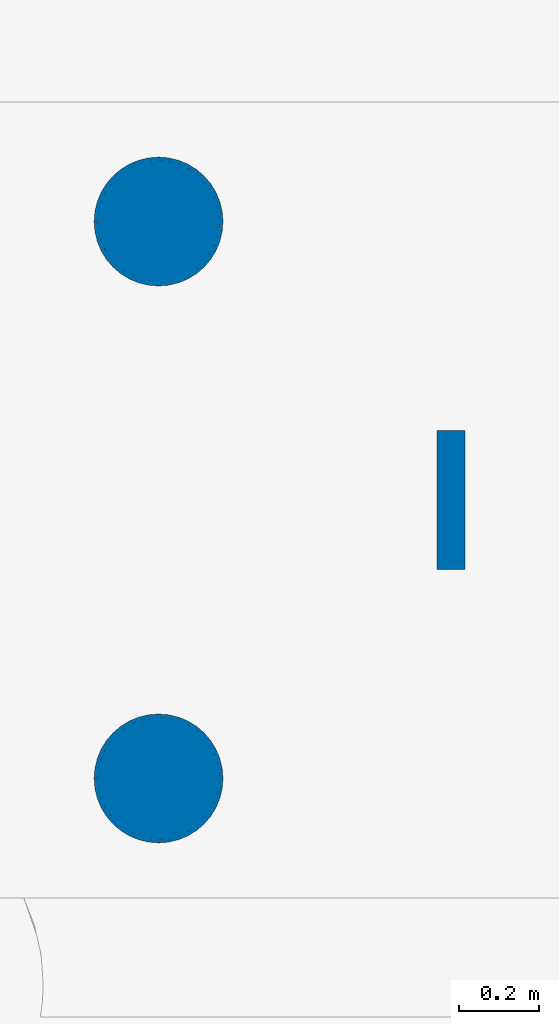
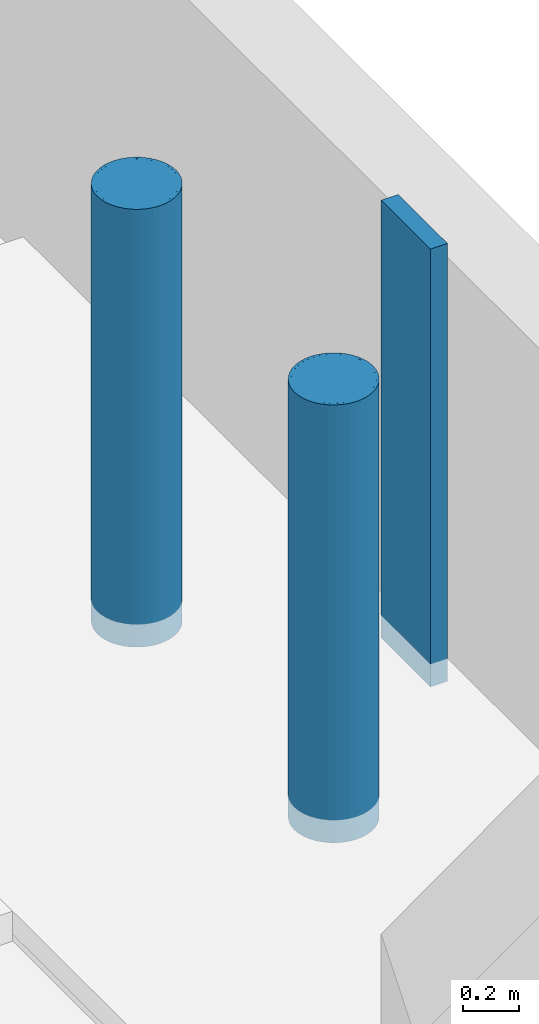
# One storey, part 12 of 42: 3 columns.
"""IFC2X3 building model written with IfcOpenShell, lengths in millimetres."""

from ifc_helpers import new_model, entity, si_unit, converted_unit, derived_unit, direction, frame, frame_2d, origin, place, context, subcontext, project, spatial, rectangle, circle, hollow_circle, extrude, source, transform, mapped, material, material_list, type_object, type_shapes, element, save


model = new_model("IFC2X3")

# Units and contexts
model_context = context("Model", 3, precision=0.01, world=origin(), true_north=direction((6.12303176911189e-17, 1.0)))
body_context = subcontext(model_context, "Body", "Model", "MODEL_VIEW")
ifc_project = project(units=[si_unit("LENGTHUNIT", "METRE", prefix="MILLI"), si_unit("AREAUNIT", "SQUARE_METRE", prefix="MILLI"), si_unit("VOLUMEUNIT", "CUBIC_METRE"), converted_unit("PLANEANGLEUNIT", "DEGREE", entity("IfcRatioMeasure", 0.0174532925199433), si_unit("PLANEANGLEUNIT", "RADIAN"), dimensions=[0, 0, 0, 0, 0, 0, 0]), si_unit("MASSUNIT", "GRAM", prefix="KILO"), derived_unit("MASSDENSITYUNIT", [(si_unit("MASSUNIT", "GRAM", prefix="KILO"), 1), (si_unit("LENGTHUNIT", "METRE"), -3)]), derived_unit("MOMENTOFINERTIAUNIT", [(si_unit("LENGTHUNIT", "METRE"), 4)]), si_unit("TIMEUNIT", "SECOND"), si_unit("FREQUENCYUNIT", "HERTZ"), si_unit("THERMODYNAMICTEMPERATUREUNIT", "DEGREE_CELSIUS"), derived_unit("THERMALTRANSMITTANCEUNIT", [(si_unit("MASSUNIT", "GRAM", prefix="KILO"), 1), (si_unit("THERMODYNAMICTEMPERATUREUNIT", "KELVIN"), -1), (si_unit("TIMEUNIT", "SECOND"), -3)]), derived_unit("VOLUMETRICFLOWRATEUNIT", [(si_unit("LENGTHUNIT", "METRE"), 3), (si_unit("TIMEUNIT", "SECOND"), -1)]), si_unit("ELECTRICCURRENTUNIT", "AMPERE"), si_unit("ELECTRICVOLTAGEUNIT", "VOLT"), si_unit("POWERUNIT", "WATT"), si_unit("FORCEUNIT", "NEWTON", prefix="KILO"), si_unit("ILLUMINANCEUNIT", "LUX"), si_unit("LUMINOUSFLUXUNIT", "LUMEN"), si_unit("LUMINOUSINTENSITYUNIT", "CANDELA"), derived_unit("USERDEFINED", [(si_unit("MASSUNIT", "GRAM", prefix="KILO"), -1), (si_unit("LENGTHUNIT", "METRE"), -2), (si_unit("TIMEUNIT", "SECOND"), 3), (si_unit("LUMINOUSFLUXUNIT", "LUMEN"), 1)]), derived_unit("LINEARVELOCITYUNIT", [(si_unit("LENGTHUNIT", "METRE"), 1), (si_unit("TIMEUNIT", "SECOND"), -1)]), si_unit("PRESSUREUNIT", "PASCAL"), derived_unit("USERDEFINED", [(si_unit("LENGTHUNIT", "METRE"), -2), (si_unit("MASSUNIT", "GRAM", prefix="KILO"), 1), (si_unit("TIMEUNIT", "SECOND"), -2)]), derived_unit("LINEARFORCEUNIT", [(si_unit("MASSUNIT", "GRAM", prefix="KILO"), 1), (si_unit("LENGTHUNIT", "METRE"), 1), (si_unit("TIMEUNIT", "SECOND"), -2), (si_unit("LENGTHUNIT", "METRE"), -1)]), derived_unit("PLANARFORCEUNIT", [(si_unit("MASSUNIT", "GRAM", prefix="KILO"), 1), (si_unit("LENGTHUNIT", "METRE"), 1), (si_unit("TIMEUNIT", "SECOND"), -2), (si_unit("LENGTHUNIT", "METRE"), -2)])], contexts=[model_context])

# Site, building, storey
site_placement = place(None, origin())
site = spatial("IfcSite", under=ifc_project, at=site_placement, Name="Theater aan de Parade", CompositionType="ELEMENT")
building_placement = place(site_placement, origin())
building = spatial("IfcBuilding", under=site, at=building_placement, Name="Theater aan de Parade", CompositionType="ELEMENT")
storey_placement = place(building_placement, frame((0.0, 0.0, -3300.0)))
storey = spatial("IfcBuildingStorey", under=building, at=storey_placement, Name="-1 kelder", CompositionType="ELEMENT", Elevation=-3300.0)

# Columns
ifc_material_1 = material(Name="00_PBT_MAT_beton t.p.g.")
column_type_1 = type_object("IfcColumnType", Name="16_PBT_SC_beton_rechthoekig:350x350_bestaand", PredefinedType="COLUMN", material=ifc_material_1)
shared_shape_1 = source(origin(), body_context, "Body", "SweptSolid", [
    extrude(rectangle(XDim=349.999999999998, YDim=69.9999999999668, at=frame_2d((0.0, 8.66151594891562e-12), x_axis=(1.0, 0.0))), frame((88325.0, 20570.0, -2640.0), z_axis=(0.0, 0.0, 1.0), x_axis=(0.0, -1.0, 0.0)), (0.0, 0.0, 1.0), 1900.00000000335),
])
type_shapes(column_type_1, [shared_shape_1])
column_1_placement = place(storey_placement, frame((0.0, 0.0, 3300.0)))
element("IfcColumn", 1, at=column_1_placement, inside=storey, type_object=column_type_1, material=ifc_material_1, Name="16_PBT_SC_beton_rechthoekig:350x350_bestaand", ObjectType="16_PBT_SC_beton_rechthoekig:350x350_bestaand", context=body_context, shape_type="MappedRepresentation", body=[
    mapped(shared_shape_1, transform((0.0, 0.0, 0.0), scale=1.0)),
])
ifc_material_2 = material(Name="00_PBT_MAT_staal_S355")
ifc_material_3 = material(Name="00_PBT_MAT_beton t.p.g._C40/50")
ifc_material_list_1 = material_list([ifc_material_2, ifc_material_3])
ifc_material_list_2 = material_list([ifc_material_2, ifc_material_3])
column_type_2 = type_object("IfcColumnType", Name="28_PBT_SC_staal_buis:S355_B323.9x10_GB_C40/50", PredefinedType="COLUMN", material=ifc_material_list_2)
shared_shape_2 = source(origin(), body_context, "Body", "SweptSolid", [
    extrude(hollow_circle(Radius=161.95, WallThickness=9.99999999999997, at=frame_2d((1.77837538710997e-15, -2.97621380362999e-13), x_axis=(1.0, 0.0))), frame((0.0, 0.0, -2640.0), z_axis=(0.0, 0.0, 1.0), x_axis=(-1.0, 0.0, 0.0)), (0.0, 0.0, 1.0), 1900.00000000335),
    extrude(circle(Radius=151.95, at=frame_2d((-6.17986865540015e-15, 1.29141200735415e-12), x_axis=(1.0, 0.0))), frame((0.0, 0.0, -2640.0)), (0.0, 0.0, 1.0), 1900.00000000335),
])
type_shapes(column_type_2, [shared_shape_2])
column_2_placement = place(storey_placement, frame((87590.0, 21270.0, 3300.0)))
element("IfcColumn", 2, at=column_2_placement, inside=storey, type_object=column_type_2, material=ifc_material_list_1, Name="28_PBT_SC_staal_buis:S355_B323.9x10_GB_C40/50", ObjectType="28_PBT_SC_staal_buis:S355_B323.9x10_GB_C40/50", context=body_context, shape_type="MappedRepresentation", body=[
    mapped(shared_shape_2, transform((0.0, 0.0, 0.0), scale=1.0)),
])
ifc_material_list_3 = material_list([ifc_material_2, ifc_material_3])
column_3_placement = place(storey_placement, frame((87590.0, 19870.0, 3300.0)))
element("IfcColumn", 3, at=column_3_placement, inside=storey, type_object=column_type_2, material=ifc_material_list_3, Name="28_PBT_SC_staal_buis:S355_B323.9x10_GB_C40/50", ObjectType="28_PBT_SC_staal_buis:S355_B323.9x10_GB_C40/50", context=body_context, shape_type="MappedRepresentation", body=[
    mapped(shared_shape_2, transform((0.0, 0.0, 0.0), scale=1.0)),
])

save(model, "model.ifc")
